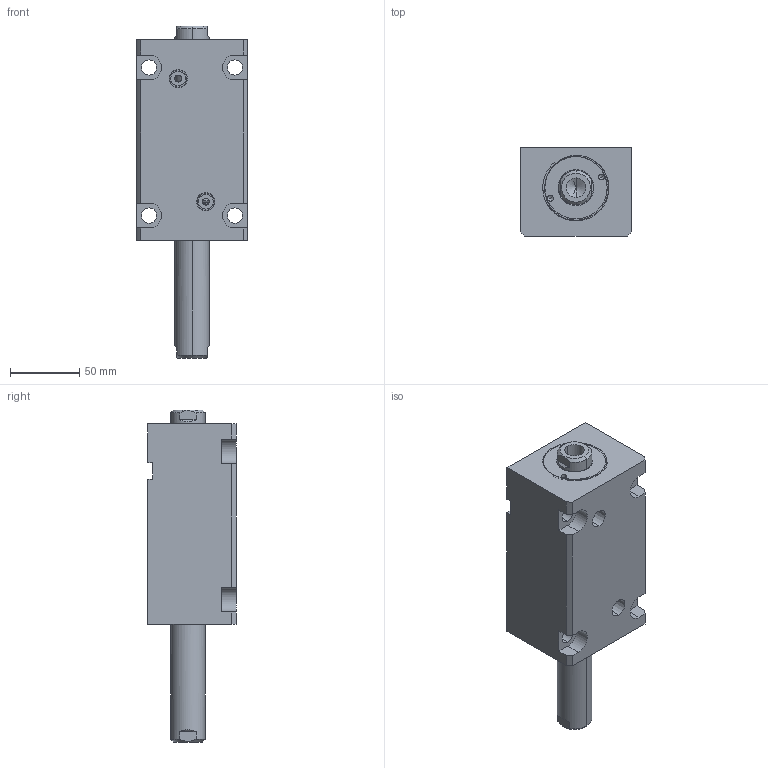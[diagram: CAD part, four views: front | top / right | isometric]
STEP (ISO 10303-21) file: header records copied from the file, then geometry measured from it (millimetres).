
FILE_DESCRIPTION (( 'STEP AP214' ), '1' );
FILE_NAME ('chtb-lw40x75_asm.STEP', '2018-06-05T02:16:16', ( 'Windows' ), ( 'Microsoft' ), 'SwSTEP 2.0', 'SolidWorks 2015', '' );
FILE_SCHEMA (( 'AUTOMOTIVE_DESIGN' ));
Length unit declared in the file: millimetre
Products named in the file (5): CHTB-SD40QG; CHTB-LW40X75NBT; CHTB-LA40PJ; chtb-lw40x75_asm; CHTB-SW40X75NHSG
Assembly tree (4 placements, depth 2):
  chtb-lw40x75_asm
    CHTB-LA40PJ
    CHTB-LW40X75NBT
    CHTB-SD40QG
    CHTB-SW40X75NHSG
Bounding box: 80 x 64 x 240 mm (x, y, z)
Volume: 687632.3 mm3; surface area: 114873.9 mm2
Topology: 4 solids, 4 shells, 172 faces, 462 edges, 304 vertices
Faces by surface type: cylinder 77, plane 52, cone 17, bspline 14, torus 12
Entity records: 10654 total; most frequent: CARTESIAN_POINT 6188, ORIENTED_EDGE 904, DIRECTION 853, EDGE_CURVE 452, AXIS2_PLACEMENT_3D 340, VERTEX_POINT 304, EDGE_LOOP 204, CIRCLE 175
